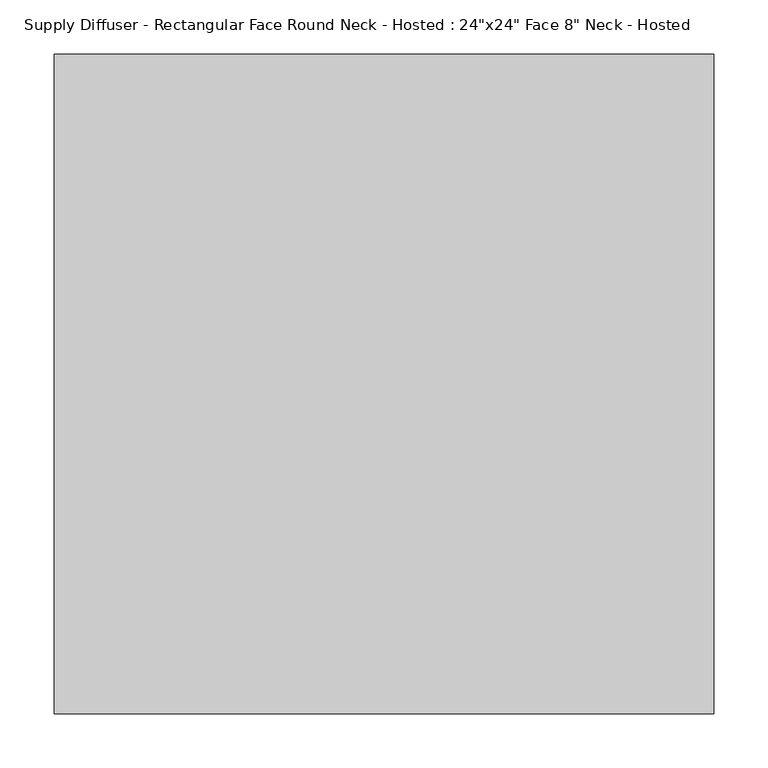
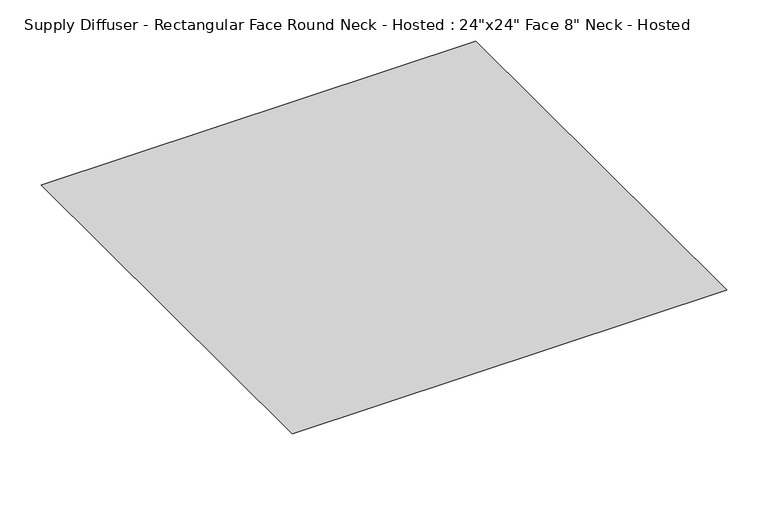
"""IFC4 building model written with IfcOpenShell, lengths in millimetres: air terminal geometry."""

from ifc_helpers import new_model, si_unit, frame, origin, place, context, project, spatial, circle_curve, source, transform, mapped, element, save
from ifc_brep_helpers import plane_surface, cylinder_surface, advanced_brep


def air_terminal_e9020785(model_context):
    return source(origin(), model_context, "Body", "AdvancedBrep", [
        advanced_brep(
        [(114.3, 114.3, -28.575), (114.3, -114.3, -28.575), (-114.3, -114.3, -28.575), (-114.3, 114.3, -28.575), (-101.6, 0.0, -28.575), (101.6, 0.0, -28.575), (304.8, 304.8, 0.0), (-304.8, 304.8, 0.0), (-304.8, -304.8, 0.0), (304.8, -304.8, 0.0), (-101.6, 0.0, -53.975), (101.6, 0.0, -53.975)],
        [
            (0, 1),
            (1, 2),
            (2, 3),
            (3, 0),
            (4, 5, circle_curve(frame((0.0, 0.0, -28.575), z_axis=(0.0, 0.0, 1.0), x_axis=(1.0, 0.0, 0.0)), 101.6)),
            (5, 4, circle_curve(frame((0.0, 0.0, -28.575), z_axis=(0.0, 0.0, 1.0), x_axis=(1.0, 0.0, 0.0)), 101.6)),
            (6, 7),
            (7, 8),
            (8, 9),
            (9, 6),
            (0, 6),
            (9, 1),
            (8, 2),
            (7, 3),
            (10, 11, circle_curve(frame((0.0, 0.0, -53.975), z_axis=(0.0, 0.0, -1.0), x_axis=(1.0, 0.0, 0.0)), 101.6)),
            (11, 10, circle_curve(frame((0.0, 0.0, -53.975), z_axis=(0.0, 0.0, -1.0), x_axis=(1.0, 0.0, 0.0)), 101.6)),
            (11, 5),
            (4, 10),
        ],
        [
            plane_surface(frame((0.0, 0.0, -28.575), z_axis=(0.0, 0.0, -1.0), x_axis=(-1.0, 0.0, 0.0))),
            plane_surface(frame((0.0, 0.0, 0.0), z_axis=(0.0, 0.0, 1.0), x_axis=(-1.0, 0.0, 0.0))),
            plane_surface(frame((304.8, 0.0, 0.0), z_axis=(0.14834045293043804, 0.0, -0.9889363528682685), x_axis=(0.0, -1.0, 0.0))),
            plane_surface(frame((0.0, -304.8, 0.0), z_axis=(0.0, -0.1483404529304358, -0.9889363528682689), x_axis=(-1.0, 0.0, 0.0))),
            plane_surface(frame((-304.8, 0.0, 0.0), z_axis=(-0.14834045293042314, 0.0, -0.9889363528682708), x_axis=(0.0, 1.0, 0.0))),
            plane_surface(frame((0.0, 304.8, 0.0), z_axis=(0.0, 0.14834045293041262, -0.9889363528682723), x_axis=(1.0, 0.0, 0.0))),
            plane_surface(frame((101.6, 0.0, -53.975), z_axis=(0.0, 0.0, -1.0), x_axis=(0.0, -1.0, 0.0))),
            cylinder_surface(frame((0.0, 0.0, -53.975), z_axis=(0.0, 0.0, 1.0), x_axis=(1.0, 0.0, 0.0)), 101.6),
        ],
        [
            (0, [[1, 2, 3, 4], [5, 6]]),
            (1, [[7, 8, 9, 10]]),
            (2, [[-1, 11, -10, 12]]),
            (3, [[-2, -12, -9, 13]]),
            (4, [[-3, -13, -8, 14]]),
            (5, [[-4, -14, -7, -11]]),
            (6, [[15, 16]]),
            (7, [[-16, 17, -5, 18]]),
            (7, [[-15, -18, -6, -17]]),
        ],
    ),
    ])


if __name__ == "__main__":
    model = new_model("IFC4")
    model_context = context("Model", 3, world=origin())
    ifc_project = project(units=[si_unit("LENGTHUNIT", "METRE", prefix="MILLI")], contexts=[model_context])
    site = spatial("IfcSite", under=ifc_project)
    building = spatial("IfcBuilding", under=site)
    placement = place(None, origin())
    air_terminal_shape = air_terminal_e9020785(model_context)
    element("IfcAirTerminal", 1, ObjectType="Supply Diffuser - Rectangular Face Round Neck - Hosted : 24\"x24\" Face 8\" Neck - Hosted", at=placement, inside=building, context=model_context, shape_type="MappedRepresentation", body=[
        mapped(air_terminal_shape, transform((0.0, 0.0, 0.0), x_axis=(1.0, 0.0, 0.0), y_axis=(0.0, 1.0, 0.0), z_axis=(0.0, 0.0, 1.0))),
    ])
    save(model, "model.ifc")
